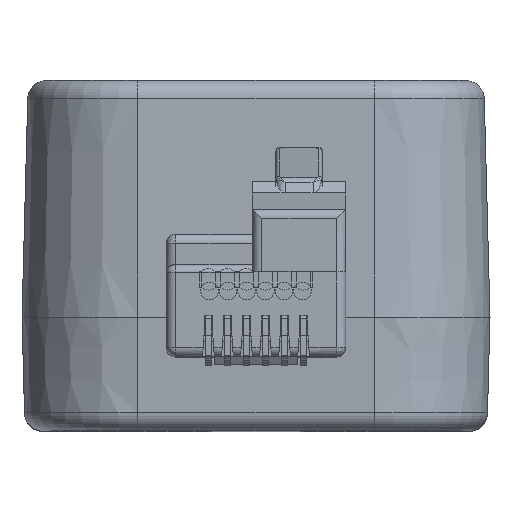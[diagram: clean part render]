
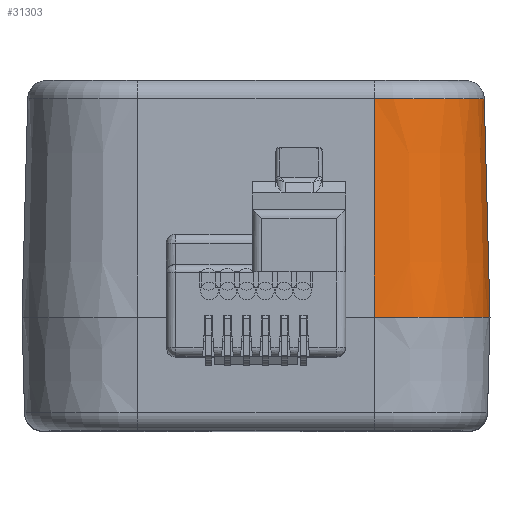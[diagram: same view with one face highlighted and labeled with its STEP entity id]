
A CAD part, top view. The second image highlights one B-rep face of the part: STEP entity #31303.
In plain terms, the highlighted conical face has half-angle 1.5 degrees and reference radius 6.2 mm.
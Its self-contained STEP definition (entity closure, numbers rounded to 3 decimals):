
#331 = DIRECTION ( 'NONE',  ( 0., 1., 0. ) ) ;
#1128 = ORIENTED_EDGE ( 'NONE', *, *, #33831, .F. ) ;
#1390 = DIRECTION ( 'NONE',  ( -1., 0., 0. ) ) ;
#1439 = EDGE_CURVE ( 'NONE', #4724, #28936, #20021, .T. ) ;
#4724 = VERTEX_POINT ( 'NONE', #8444 ) ;
#6410 = CARTESIAN_POINT ( 'NONE',  ( 12.243, 17.826, 6.35 ) ) ;
#7993 = CARTESIAN_POINT ( 'NONE',  ( 6.35, 6.1, 12.55 ) ) ;
#8030 = CIRCLE ( 'NONE', #32981, 5.893 ) ;
#8444 = CARTESIAN_POINT ( 'NONE',  ( 6.35, 6.1, 12.55 ) ) ;
#9256 = VECTOR ( 'NONE', #24791, 1000. ) ;
#9979 = VERTEX_POINT ( 'NONE', #6410 ) ;
#10003 = CARTESIAN_POINT ( 'NONE',  ( 12.55, 6.1, 6.35 ) ) ;
#12187 = CONICAL_SURFACE ( 'NONE', #18602, 6.2, 0.026 ) ;
#12355 = LINE ( 'NONE', #24584, #9256 ) ;
#12491 = ORIENTED_EDGE ( 'NONE', *, *, #39289, .T. ) ;
#13503 = DIRECTION ( 'NONE',  ( 0., -1., 0. ) ) ;
#14132 = VERTEX_POINT ( 'NONE', #10003 ) ;
#18602 = AXIS2_PLACEMENT_3D ( 'NONE', #25789, #13503, #1390 ) ;
#19164 = CARTESIAN_POINT ( 'NONE',  ( 6.35, 17.826, 12.243 ) ) ;
#20021 = LINE ( 'NONE', #7993, #34049 ) ;
#20092 = ORIENTED_EDGE ( 'NONE', *, *, #23667, .T. ) ;
#21999 = DIRECTION ( 'NONE',  ( -1., 0., 0. ) ) ;
#23219 = EDGE_LOOP ( 'NONE', ( #1128, #20092, #25355, #12491 ) ) ;
#23667 = EDGE_CURVE ( 'NONE', #9979, #28936, #8030, .T. ) ;
#24067 = CIRCLE ( 'NONE', #29175, 6.2 ) ;
#24584 = CARTESIAN_POINT ( 'NONE',  ( 12.55, 6.1, 6.35 ) ) ;
#24791 = DIRECTION ( 'NONE',  ( 0.026, -1., 0. ) ) ;
#25228 = DIRECTION ( 'NONE',  ( 0., -1., 0. ) ) ;
#25355 = ORIENTED_EDGE ( 'NONE', *, *, #1439, .F. ) ;
#25789 = CARTESIAN_POINT ( 'NONE',  ( 6.35, 6.1, 6.35 ) ) ;
#28936 = VERTEX_POINT ( 'NONE', #19164 ) ;
#29175 = AXIS2_PLACEMENT_3D ( 'NONE', #30928, #331, #31134 ) ;
#30928 = CARTESIAN_POINT ( 'NONE',  ( 6.35, 6.1, 6.35 ) ) ;
#31134 = DIRECTION ( 'NONE',  ( 0., 0., 1. ) ) ;
#31303 = ADVANCED_FACE ( 'NONE', ( #36831 ), #12187, .T. ) ;
#31805 = CARTESIAN_POINT ( 'NONE',  ( 6.35, 17.826, 6.35 ) ) ;
#31850 = DIRECTION ( 'NONE',  ( 0., 1., -0.026 ) ) ;
#32981 = AXIS2_PLACEMENT_3D ( 'NONE', #31805, #25228, #21999 ) ;
#33831 = EDGE_CURVE ( 'NONE', #9979, #14132, #12355, .T. ) ;
#34049 = VECTOR ( 'NONE', #31850, 1000. ) ;
#36831 = FACE_OUTER_BOUND ( 'NONE', #23219, .T. ) ;
#39289 = EDGE_CURVE ( 'NONE', #4724, #14132, #24067, .T. ) ;
